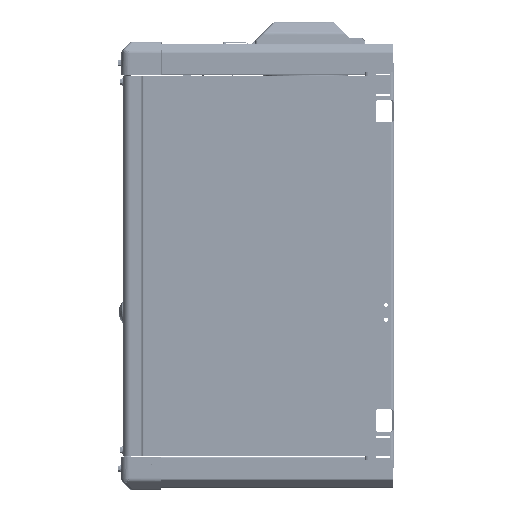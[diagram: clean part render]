
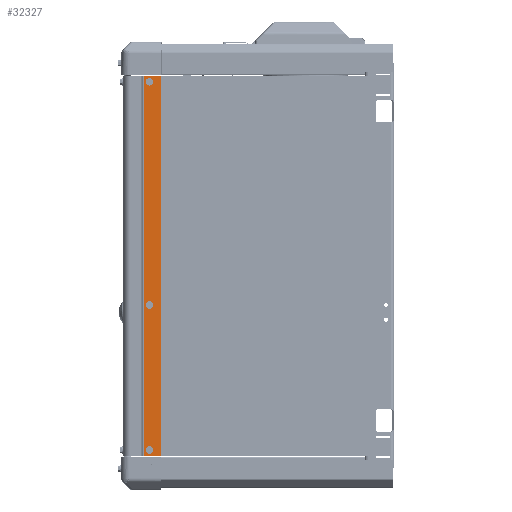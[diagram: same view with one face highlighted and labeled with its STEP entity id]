
A CAD part, left-side view. The second image highlights one B-rep face of the part: STEP entity #32327.
In plain terms, the highlighted planar face has unit normal (-1, 0, 0).
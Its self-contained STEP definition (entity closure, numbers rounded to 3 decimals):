
#1525 = DIRECTION ( 'NONE',  ( 0., 0., -1. ) ) ;
#3152 = CARTESIAN_POINT ( 'NONE',  ( -7.77, 14.619, -12.368 ) ) ;
#4581 = ORIENTED_EDGE ( 'NONE', *, *, #147414, .T. ) ;
#5117 = AXIS2_PLACEMENT_3D ( 'NONE', #95811, #154017, #93929 ) ;
#9110 = EDGE_CURVE ( 'NONE', #122388, #112754, #96600, .T. ) ;
#12219 = FACE_BOUND ( 'NONE', #132438, .T. ) ;
#15486 = CARTESIAN_POINT ( 'NONE',  ( -7.77, 14.619, -2.649 ) ) ;
#15732 = AXIS2_PLACEMENT_3D ( 'NONE', #86789, #87717, #101098 ) ;
#17507 = DIRECTION ( 'NONE',  ( 1., 0., 0. ) ) ;
#19471 = VERTEX_POINT ( 'NONE', #167823 ) ;
#21862 = CARTESIAN_POINT ( 'NONE',  ( -7.77, 13.843, 12.888 ) ) ;
#22138 = EDGE_LOOP ( 'NONE', ( #48321, #75942 ) ) ;
#23474 = CARTESIAN_POINT ( 'NONE',  ( -7.77, 15.014, 12.888 ) ) ;
#25918 = CARTESIAN_POINT ( 'NONE',  ( -7.77, 14.619, -2.509 ) ) ;
#26551 = DIRECTION ( 'NONE',  ( 1., 0., 0. ) ) ;
#29125 = CIRCLE ( 'NONE', #5117, 0.14 ) ;
#32327 = ADVANCED_FACE ( 'NONE', ( #12219, #142008, #187841, #127679 ), #57063, .F. ) ;
#32985 = DIRECTION ( 'NONE',  ( 0., 0., -1. ) ) ;
#43525 = EDGE_CURVE ( 'NONE', #19471, #108436, #97127, .T. ) ;
#48321 = ORIENTED_EDGE ( 'NONE', *, *, #91961, .T. ) ;
#51545 = CIRCLE ( 'NONE', #79037, 0.14 ) ;
#54000 = AXIS2_PLACEMENT_3D ( 'NONE', #117591, #60334, #172051 ) ;
#54891 = CARTESIAN_POINT ( 'NONE',  ( -7.77, 15.014, 0. ) ) ;
#55189 = DIRECTION ( 'NONE',  ( 0., -1., 0. ) ) ;
#55392 = CIRCLE ( 'NONE', #15732, 0.14 ) ;
#57063 = PLANE ( 'NONE',  #67883 ) ;
#58815 = CARTESIAN_POINT ( 'NONE',  ( -7.77, 14.619, 12.368 ) ) ;
#59436 = ORIENTED_EDGE ( 'NONE', *, *, #151605, .T. ) ;
#60176 = VECTOR ( 'NONE', #1525, 39.37 ) ;
#60334 = DIRECTION ( 'NONE',  ( 1., 0., 0. ) ) ;
#62834 = EDGE_LOOP ( 'NONE', ( #174468, #179641 ) ) ;
#67883 = AXIS2_PLACEMENT_3D ( 'NONE', #134017, #26551, #55189 ) ;
#75703 = CARTESIAN_POINT ( 'NONE',  ( -7.77, 14.619, -12.508 ) ) ;
#75942 = ORIENTED_EDGE ( 'NONE', *, *, #104781, .T. ) ;
#79037 = AXIS2_PLACEMENT_3D ( 'NONE', #75703, #17507, #91916 ) ;
#80974 = EDGE_CURVE ( 'NONE', #149843, #158966, #157045, .T. ) ;
#82161 = EDGE_CURVE ( 'NONE', #140850, #130044, #139185, .T. ) ;
#84558 = EDGE_CURVE ( 'NONE', #130044, #19471, #172388, .T. ) ;
#86789 = CARTESIAN_POINT ( 'NONE',  ( -7.77, 14.619, 12.509 ) ) ;
#87717 = DIRECTION ( 'NONE',  ( 1., 0., 0. ) ) ;
#91916 = DIRECTION ( 'NONE',  ( 0., 0., 1. ) ) ;
#91961 = EDGE_CURVE ( 'NONE', #144133, #157499, #55392, .T. ) ;
#92717 = DIRECTION ( 'NONE',  ( 0., 0., -1. ) ) ;
#93929 = DIRECTION ( 'NONE',  ( 0., 0., -1. ) ) ;
#95811 = CARTESIAN_POINT ( 'NONE',  ( -7.77, 14.619, -2.649 ) ) ;
#96600 = CIRCLE ( 'NONE', #54000, 0.14 ) ;
#97127 = LINE ( 'NONE', #184984, #103780 ) ;
#100652 = LINE ( 'NONE', #54891, #141870 ) ;
#101098 = DIRECTION ( 'NONE',  ( 0., 0., -1. ) ) ;
#103780 = VECTOR ( 'NONE', #127649, 39.37 ) ;
#104781 = EDGE_CURVE ( 'NONE', #157499, #144133, #113363, .T. ) ;
#105143 = DIRECTION ( 'NONE',  ( 1., 0., 0. ) ) ;
#108436 = VERTEX_POINT ( 'NONE', #174851 ) ;
#109140 = ORIENTED_EDGE ( 'NONE', *, *, #82161, .F. ) ;
#111673 = VECTOR ( 'NONE', #184097, 39.37 ) ;
#112754 = VERTEX_POINT ( 'NONE', #165040 ) ;
#113079 = DIRECTION ( 'NONE',  ( 0., 0., -1. ) ) ;
#113363 = CIRCLE ( 'NONE', #162148, 0.14 ) ;
#117591 = CARTESIAN_POINT ( 'NONE',  ( -7.77, 14.619, -12.508 ) ) ;
#121572 = CARTESIAN_POINT ( 'NONE',  ( -7.77, 14.619, -2.79 ) ) ;
#122388 = VERTEX_POINT ( 'NONE', #3152 ) ;
#127649 = DIRECTION ( 'NONE',  ( 0., 1., 0. ) ) ;
#127679 = FACE_OUTER_BOUND ( 'NONE', #156133, .T. ) ;
#130044 = VERTEX_POINT ( 'NONE', #187155 ) ;
#132438 = EDGE_LOOP ( 'NONE', ( #178080, #59436 ) ) ;
#134017 = CARTESIAN_POINT ( 'NONE',  ( -7.77, 16.418, 0. ) ) ;
#137863 = CARTESIAN_POINT ( 'NONE',  ( -7.77, 14.619, 12.509 ) ) ;
#138828 = ORIENTED_EDGE ( 'NONE', *, *, #84558, .F. ) ;
#139185 = LINE ( 'NONE', #21862, #111673 ) ;
#140850 = VERTEX_POINT ( 'NONE', #23474 ) ;
#141870 = VECTOR ( 'NONE', #113079, 39.37 ) ;
#142008 = FACE_BOUND ( 'NONE', #62834, .T. ) ;
#143756 = CARTESIAN_POINT ( 'NONE',  ( -7.77, 13.826, -12.888 ) ) ;
#144133 = VERTEX_POINT ( 'NONE', #58815 ) ;
#147414 = EDGE_CURVE ( 'NONE', #140850, #108436, #100652, .T. ) ;
#149843 = VERTEX_POINT ( 'NONE', #121572 ) ;
#151605 = EDGE_CURVE ( 'NONE', #112754, #122388, #51545, .T. ) ;
#153423 = ORIENTED_EDGE ( 'NONE', *, *, #43525, .F. ) ;
#154017 = DIRECTION ( 'NONE',  ( 1., 0., 0. ) ) ;
#156133 = EDGE_LOOP ( 'NONE', ( #4581, #153423, #138828, #109140 ) ) ;
#157045 = CIRCLE ( 'NONE', #181457, 0.14 ) ;
#157499 = VERTEX_POINT ( 'NONE', #188334 ) ;
#158966 = VERTEX_POINT ( 'NONE', #25918 ) ;
#162148 = AXIS2_PLACEMENT_3D ( 'NONE', #137863, #164642, #32985 ) ;
#164642 = DIRECTION ( 'NONE',  ( 1., 0., 0. ) ) ;
#165040 = CARTESIAN_POINT ( 'NONE',  ( -7.77, 14.619, -12.649 ) ) ;
#167823 = CARTESIAN_POINT ( 'NONE',  ( -7.77, 13.826, -12.888 ) ) ;
#172051 = DIRECTION ( 'NONE',  ( 0., 0., 1. ) ) ;
#172388 = LINE ( 'NONE', #143756, #60176 ) ;
#174468 = ORIENTED_EDGE ( 'NONE', *, *, #80974, .T. ) ;
#174851 = CARTESIAN_POINT ( 'NONE',  ( -7.77, 15.014, -12.888 ) ) ;
#178080 = ORIENTED_EDGE ( 'NONE', *, *, #9110, .T. ) ;
#179641 = ORIENTED_EDGE ( 'NONE', *, *, #188397, .T. ) ;
#181457 = AXIS2_PLACEMENT_3D ( 'NONE', #15486, #105143, #92717 ) ;
#184097 = DIRECTION ( 'NONE',  ( 0., -1., 0. ) ) ;
#184984 = CARTESIAN_POINT ( 'NONE',  ( -7.77, 16.338, -12.888 ) ) ;
#187155 = CARTESIAN_POINT ( 'NONE',  ( -7.77, 13.826, 12.888 ) ) ;
#187841 = FACE_BOUND ( 'NONE', #22138, .T. ) ;
#188334 = CARTESIAN_POINT ( 'NONE',  ( -7.77, 14.619, 12.649 ) ) ;
#188397 = EDGE_CURVE ( 'NONE', #158966, #149843, #29125, .T. ) ;
